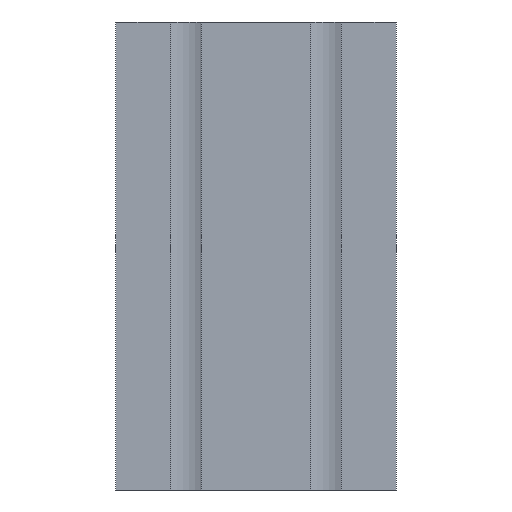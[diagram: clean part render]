
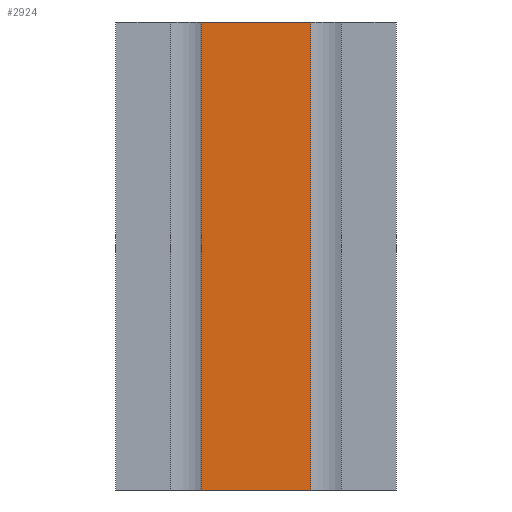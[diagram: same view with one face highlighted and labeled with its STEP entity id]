
A CAD part, front view. The second image highlights one B-rep face of the part: STEP entity #2924.
In plain terms, the highlighted planar face has unit normal (0, -1, 0).
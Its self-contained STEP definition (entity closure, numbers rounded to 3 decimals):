
#22=PLANE('',#3091);
#173=LINE('',#3964,#440);
#216=LINE('',#4085,#483);
#282=LINE('',#4242,#549);
#283=LINE('',#4243,#550);
#440=VECTOR('',#3307,1000.);
#483=VECTOR('',#3394,1000.);
#549=VECTOR('',#3496,1000.);
#550=VECTOR('',#3497,1000.);
#882=ORIENTED_EDGE('',*,*,#1426,.T.);
#883=ORIENTED_EDGE('',*,*,#1506,.T.);
#884=ORIENTED_EDGE('',*,*,#1362,.F.);
#885=ORIENTED_EDGE('',*,*,#1507,.F.);
#1362=EDGE_CURVE('',#1681,#1612,#173,.T.);
#1426=EDGE_CURVE('',#1738,#1737,#216,.T.);
#1506=EDGE_CURVE('',#1737,#1612,#282,.T.);
#1507=EDGE_CURVE('',#1738,#1681,#283,.T.);
#1612=VERTEX_POINT('',#3825);
#1681=VERTEX_POINT('',#3963);
#1737=VERTEX_POINT('',#4084);
#1738=VERTEX_POINT('',#4086);
#1884=EDGE_LOOP('',(#882,#883,#884,#885));
#2011=FACE_BOUND('',#1884,.T.);
#2924=ADVANCED_FACE('',(#2011),#22,.F.);
#3091=AXIS2_PLACEMENT_3D('',#4241,#3494,#3495);
#3307=DIRECTION('',(1.,0.,0.));
#3394=DIRECTION('',(1.,0.,0.));
#3494=DIRECTION('',(0.,1.,0.));
#3495=DIRECTION('',(1.,0.,0.));
#3496=DIRECTION('',(0.,0.,1.));
#3497=DIRECTION('',(0.,0.,1.));
#3825=CARTESIAN_POINT('',(11.75,-30.,50.));
#3963=CARTESIAN_POINT('',(-11.75,-30.,50.));
#3964=CARTESIAN_POINT('',(-30.,-30.,50.));
#4084=CARTESIAN_POINT('',(11.75,-30.,-50.));
#4085=CARTESIAN_POINT('',(-30.,-30.,-50.));
#4086=CARTESIAN_POINT('',(-11.75,-30.,-50.));
#4241=CARTESIAN_POINT('',(-30.,-30.,50.));
#4242=CARTESIAN_POINT('',(11.75,-30.,50.));
#4243=CARTESIAN_POINT('',(-11.75,-30.,-81.149));
